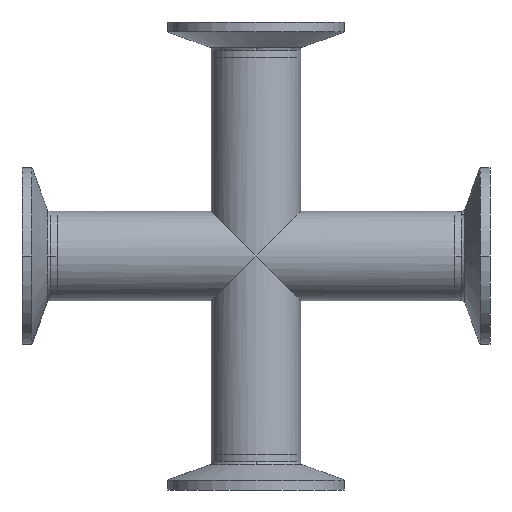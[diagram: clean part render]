
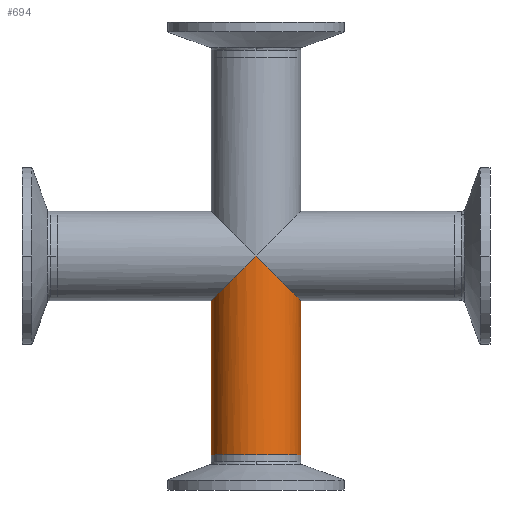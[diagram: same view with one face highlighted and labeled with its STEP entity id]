
A CAD part, front view. The second image highlights one B-rep face of the part: STEP entity #694.
In plain terms, the highlighted cylindrical face has radius 12.7 mm (diameter 25.4 mm), a partial arc.
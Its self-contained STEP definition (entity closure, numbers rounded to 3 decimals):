
#37 = DIRECTION ( 'NONE',  ( 1., 0., 0. ) ) ;
#86 = LINE ( 'NONE', #2047, #3692 ) ;
#352 = CARTESIAN_POINT ( 'NONE',  ( 12.7, 0., -12.7 ) ) ;
#486 = DIRECTION ( 'NONE',  ( 0., 0., 1. ) ) ;
#509 = CARTESIAN_POINT ( 'NONE',  ( 12.7, 0., -56.675 ) ) ;
#614 = AXIS2_PLACEMENT_3D ( 'NONE', #1139, #486, #37 ) ;
#638 = EDGE_LOOP ( 'NONE', ( #4227, #884, #5420, #1552, #2856 ) ) ;
#694 = ADVANCED_FACE ( 'NONE', ( #2449 ), #5774, .T. ) ;
#815 = VERTEX_POINT ( 'NONE', #4594 ) ;
#884 = ORIENTED_EDGE ( 'NONE', *, *, #1063, .T. ) ;
#974 = DIRECTION ( 'NONE',  ( 0., 0., 1. ) ) ;
#1063 = EDGE_CURVE ( 'NONE', #5557, #1384, #2087, .T. ) ;
#1139 = CARTESIAN_POINT ( 'NONE',  ( 0., 0., -56.675 ) ) ;
#1184 = EDGE_CURVE ( 'NONE', #3074, #815, #5679, .T. ) ;
#1239 = CARTESIAN_POINT ( 'NONE',  ( 0., 0., -56.675 ) ) ;
#1384 = VERTEX_POINT ( 'NONE', #5786 ) ;
#1454 = CARTESIAN_POINT ( 'NONE',  ( 7.439, -12.7, -7.439 ) ) ;
#1552 = ORIENTED_EDGE ( 'NONE', *, *, #1184, .T. ) ;
#1606 = EDGE_CURVE ( 'NONE', #815, #4694, #4819, .T. ) ;
#1907 = CARTESIAN_POINT ( 'NONE',  ( 12.7, 0., -12.7 ) ) ;
#2047 = CARTESIAN_POINT ( 'NONE',  ( -12.7, 0., -56.675 ) ) ;
#2087 = CIRCLE ( 'NONE', #614, 12.7 ) ;
#2334 = CARTESIAN_POINT ( 'NONE',  ( -12.7, 0., -56.675 ) ) ;
#2449 = FACE_OUTER_BOUND ( 'NONE', #638, .T. ) ;
#2572 = LINE ( 'NONE', #509, #3609 ) ;
#2856 = ORIENTED_EDGE ( 'NONE', *, *, #1606, .T. ) ;
#3074 = VERTEX_POINT ( 'NONE', #352 ) ;
#3609 = VECTOR ( 'NONE', #974, 1000. ) ;
#3692 = VECTOR ( 'NONE', #3854, 1000. ) ;
#3854 = DIRECTION ( 'NONE',  ( 0., 0., 1. ) ) ;
#3922 = DIRECTION ( 'NONE',  ( 0., 0., 1. ) ) ;
#4227 = ORIENTED_EDGE ( 'NONE', *, *, #4438, .F. ) ;
#4438 = EDGE_CURVE ( 'NONE', #5557, #4694, #86, .T. ) ;
#4557 = CARTESIAN_POINT ( 'NONE',  ( -12.7, 0., -12.7 ) ) ;
#4593 = CARTESIAN_POINT ( 'NONE',  ( -12.7, 0., -12.7 ) ) ;
#4594 = CARTESIAN_POINT ( 'NONE',  ( 0., -12.7, 0. ) ) ;
#4598 = CARTESIAN_POINT ( 'NONE',  ( -12.7, -7.439, -12.7 ) ) ;
#4615 = CARTESIAN_POINT ( 'NONE',  ( 0., -12.7, 0. ) ) ;
#4694 = VERTEX_POINT ( 'NONE', #4593 ) ;
#4819 =( BOUNDED_CURVE ( )  B_SPLINE_CURVE ( 3, ( #5104, #4985, #4598, #4557 ),
 .UNSPECIFIED., .F., .F. ) 
 B_SPLINE_CURVE_WITH_KNOTS ( ( 4, 4 ),
 ( 1.571, 3.142 ),
 .UNSPECIFIED. ) 
 CURVE ( )  GEOMETRIC_REPRESENTATION_ITEM ( )  RATIONAL_B_SPLINE_CURVE ( ( 1., 0.805, 0.805, 1. ) ) 
 REPRESENTATION_ITEM ( '' )  );
#4953 = EDGE_CURVE ( 'NONE', #1384, #3074, #2572, .T. ) ;
#4985 = CARTESIAN_POINT ( 'NONE',  ( -7.439, -12.7, -7.439 ) ) ;
#5082 = CARTESIAN_POINT ( 'NONE',  ( 12.7, -7.439, -12.7 ) ) ;
#5104 = CARTESIAN_POINT ( 'NONE',  ( 0., -12.7, 0. ) ) ;
#5420 = ORIENTED_EDGE ( 'NONE', *, *, #4953, .T. ) ;
#5442 = DIRECTION ( 'NONE',  ( 1., 0., 0. ) ) ;
#5557 = VERTEX_POINT ( 'NONE', #2334 ) ;
#5679 =( BOUNDED_CURVE ( )  B_SPLINE_CURVE ( 3, ( #1907, #5082, #1454, #4615 ),
 .UNSPECIFIED., .F., .F. ) 
 B_SPLINE_CURVE_WITH_KNOTS ( ( 4, 4 ),
 ( 3.142, 4.712 ),
 .UNSPECIFIED. ) 
 CURVE ( )  GEOMETRIC_REPRESENTATION_ITEM ( )  RATIONAL_B_SPLINE_CURVE ( ( 1., 0.805, 0.805, 1. ) ) 
 REPRESENTATION_ITEM ( '' )  );
#5709 = AXIS2_PLACEMENT_3D ( 'NONE', #1239, #3922, #5442 ) ;
#5774 = CYLINDRICAL_SURFACE ( 'NONE', #5709, 12.7 ) ;
#5786 = CARTESIAN_POINT ( 'NONE',  ( 12.7, 0., -56.675 ) ) ;
